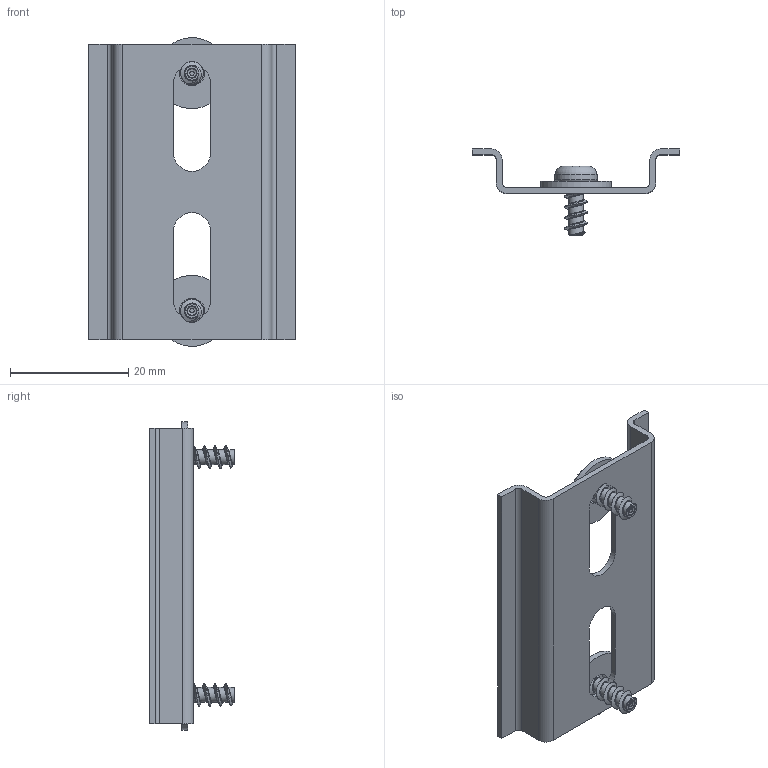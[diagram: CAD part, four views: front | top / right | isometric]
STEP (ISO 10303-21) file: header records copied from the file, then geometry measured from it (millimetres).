
FILE_DESCRIPTION (( 'STEP AP214' ), '1' );
FILE_NAME ('DR-04.STEP', '2022-05-05T15:10:09', ( '' ), ( '' ), 'SwSTEP 2.0', 'SolidWorks 2016', '' );
FILE_SCHEMA (( 'AUTOMOTIVE_DESIGN' ));
Length unit declared in the file: inch
Products named in the file (4): plain washer large_din_W-014; DR-xxR_DR-04R; SCREWS-022_SCREWS-022; DR-04
Assembly tree (5 placements, depth 2):
  DR-04
    DR-xxR_DR-04R
    plain washer large_din_W-014  x2
    SCREWS-022_SCREWS-022  x2
Bounding box: 35 x 14.5 x 52.16 mm (x, y, z)
Volume: 2275.8 mm3; surface area: 5463.9 mm2
Topology: 3 solids, 5 shells, 276 faces, 636 edges, 362 vertices
Faces by surface type: cylinder 90, bspline 86, plane 66, torus 22, sphere 8, cone 4
Full cylindrical faces by diameter (mm): 2.5 x2, 4.3 x2, 7.2 x2, 12 x2
Entity records: 9288 total; most frequent: CARTESIAN_POINT 5975, ORIENTED_EDGE 684, DIRECTION 612, EDGE_CURVE 342, AXIS2_PLACEMENT_3D 244, VERTEX_POINT 205, EDGE_LOOP 173, FACE_OUTER_BOUND 164
